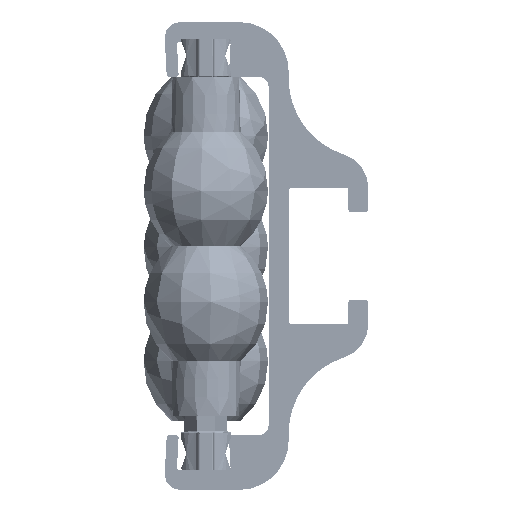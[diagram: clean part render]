
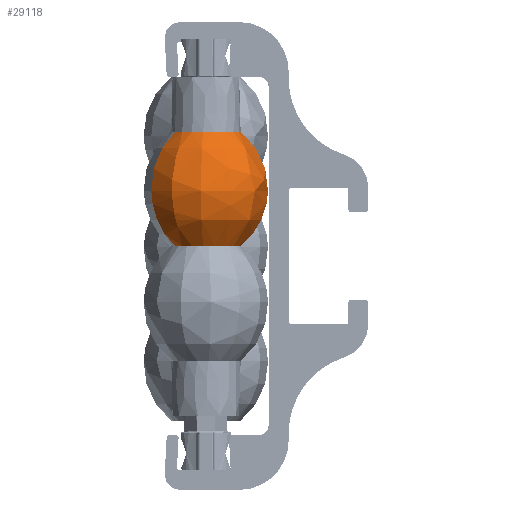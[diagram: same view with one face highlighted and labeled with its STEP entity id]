
A CAD part, left-side view. The second image highlights one B-rep face of the part: STEP entity #29118.
In plain terms, the highlighted face is a revolution surface.
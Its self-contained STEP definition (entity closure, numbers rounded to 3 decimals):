
#28944=CARTESIAN_POINT('Vertex',(0.,-3.5,-5.75)) ;
#28949=CARTESIAN_POINT('Axis2P3D Location',(0.,0.,-5.75)) ;
#28953=CARTESIAN_POINT('Vertex',(-1.678,3.072,-5.75)) ;
#29068=CARTESIAN_POINT('Vertex',(0.,-3.5,5.75)) ;
#29072=CARTESIAN_POINT('Control Point',(0.,-3.5,-5.75)) ;
#29073=CARTESIAN_POINT('Control Point',(0.,-5.552,-4.095)) ;
#29074=CARTESIAN_POINT('Control Point',(0.,-6.873,-1.526)) ;
#29075=CARTESIAN_POINT('Control Point',(0.,-6.873,1.526)) ;
#29076=CARTESIAN_POINT('Control Point',(0.,-5.552,4.095)) ;
#29077=CARTESIAN_POINT('Control Point',(0.,-3.5,5.75)) ;
#29087=CARTESIAN_POINT('Control Point',(0.,3.5,-5.75)) ;
#29088=CARTESIAN_POINT('Control Point',(0.,5.552,-4.095)) ;
#29089=CARTESIAN_POINT('Control Point',(0.,6.873,-1.526)) ;
#29090=CARTESIAN_POINT('Control Point',(0.,6.873,1.526)) ;
#29091=CARTESIAN_POINT('Control Point',(0.,5.552,4.095)) ;
#29092=CARTESIAN_POINT('Control Point',(0.,3.5,5.75)) ;
#29093=CARTESIAN_POINT('Axis1P Location',(0.,0.,2.75)) ;
#29097=CARTESIAN_POINT('Axis2P3D Location',(0.,0.,5.75)) ;
#29101=CARTESIAN_POINT('Vertex',(-1.678,3.072,5.75)) ;
#29105=CARTESIAN_POINT('Control Point',(-1.678,3.072,-5.75)) ;
#29106=CARTESIAN_POINT('Control Point',(-2.662,4.872,-4.095)) ;
#29107=CARTESIAN_POINT('Control Point',(-3.295,6.032,-1.526)) ;
#29108=CARTESIAN_POINT('Control Point',(-3.295,6.032,1.526)) ;
#29109=CARTESIAN_POINT('Control Point',(-2.662,4.872,4.095)) ;
#29110=CARTESIAN_POINT('Control Point',(-1.678,3.072,5.75)) ;
#28950=DIRECTION('Axis2P3D Direction',(0.,0.,1.)) ;
#29094=DIRECTION('Axis1P Direction',(0.,0.,1.)) ;
#29098=DIRECTION('Axis2P3D Direction',(0.,0.,1.)) ;
#28951=AXIS2_PLACEMENT_3D('Circle Axis2P3D',#28949,#28950,$) ;
#29099=AXIS2_PLACEMENT_3D('Circle Axis2P3D',#29097,#29098,$) ;
#29113=ORIENTED_EDGE('',*,*,#29103,.F.) ;
#29114=ORIENTED_EDGE('',*,*,#29111,.F.) ;
#29115=ORIENTED_EDGE('',*,*,#28955,.T.) ;
#29116=ORIENTED_EDGE('',*,*,#29078,.F.) ;
#29118=ADVANCED_FACE('PartBody',(#29117),#29096,.T.) ;
#29095=AXIS1_PLACEMENT('Revolution Surface Axis1P',#29093,#29094) ;
#29071=B_SPLINE_CURVE_WITH_KNOTS('',5,(#29072,#29073,#29074,#29075,#29076,#29077),.UNSPECIFIED.,.F.,.U.,(6,6),(39.82,53.922),.UNSPECIFIED.) ;
#29086=B_SPLINE_CURVE_WITH_KNOTS('',5,(#29087,#29088,#29089,#29090,#29091,#29092),.UNSPECIFIED.,.F.,.U.,(6,6),(39.82,53.922),.UNSPECIFIED.) ;
#29104=B_SPLINE_CURVE_WITH_KNOTS('',5,(#29105,#29106,#29107,#29108,#29109,#29110),.UNSPECIFIED.,.F.,.U.,(6,6),(39.82,53.922),.UNSPECIFIED.) ;
#28952=CIRCLE('generated circle',#28951,3.5) ;
#29100=CIRCLE('generated circle',#29099,3.5) ;
#28955=EDGE_CURVE('',#28954,#28945,#28952,.T.) ;
#29078=EDGE_CURVE('',#29069,#28945,#29071,.F.) ;
#29103=EDGE_CURVE('',#29102,#29069,#29100,.T.) ;
#29111=EDGE_CURVE('',#28954,#29102,#29104,.T.) ;
#29112=EDGE_LOOP('',(#29113,#29114,#29115,#29116)) ;
#29117=FACE_OUTER_BOUND('',#29112,.T.) ;
#29096=SURFACE_OF_REVOLUTION('Surface of Revolution',#29086,#29095) ;
#28945=VERTEX_POINT('',#28944) ;
#28954=VERTEX_POINT('',#28953) ;
#29069=VERTEX_POINT('',#29068) ;
#29102=VERTEX_POINT('',#29101) ;
